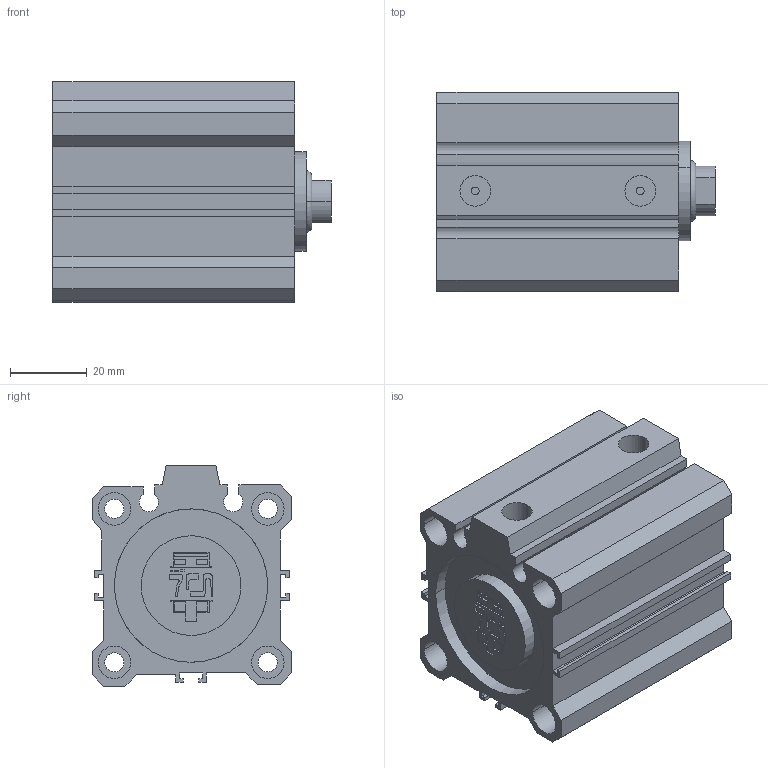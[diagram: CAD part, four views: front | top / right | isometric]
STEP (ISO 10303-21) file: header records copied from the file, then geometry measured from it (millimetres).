
FILE_DESCRIPTION(('CATIA V5 STEP Exchange'),'2;1');
FILE_NAME('D:\PDA\PDA-STP\PDA 40-16\PDA 40-16-25.stp','2016-02-02T10:45:00+00:00',('none'),('none'),'Version 5-6 Release 2012','CATIA V5 STEP AP203','none');
FILE_SCHEMA(('CONFIG_CONTROL_DESIGN'));
Length unit declared in the file: millimetre
Products named in the file (1): PDA 40-16-25-00
Assembly tree (2 placements, depth 2):
  PDA 40-16-25-00
    #58
    #6821
Bounding box: 72.5 x 52 x 57.5 mm (x, y, z)
Volume: 114380.8 mm3; surface area: 44975.9 mm2
Topology: 2 solids, 2 shells, 257 faces, 660 edges, 440 vertices
Faces by surface type: plane 181, cylinder 74, torus 2
Entity records: 7290 total; most frequent: ORIENTED_EDGE 1320, CARTESIAN_POINT 1272, DIRECTION 1004, EDGE_CURVE 660, VECTOR 500, LINE 500, VERTEX_POINT 440, AXIS2_PLACEMENT_3D 332
